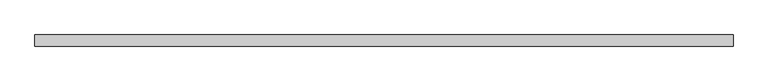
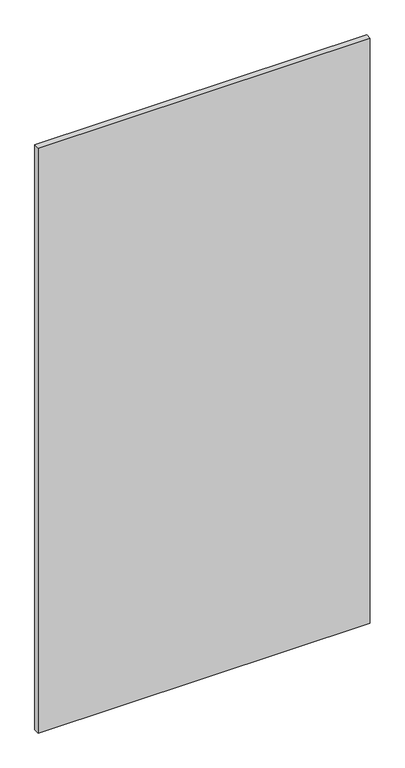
"""IFC4 building model written with IfcOpenShell, lengths in millimetres: plate geometry, 系统嵌板 : 玻璃."""

from ifc_helpers import new_model, si_unit, origin, origin_with_axes, place, context, project, spatial, polyline, outline, extrude, source, transform, mapped, element, save


def plate_ecb7967d(model_context):
    return source(origin(), model_context, "Body", "SweptSolid", [
        extrude(outline(polyline([(760.0000002, -12.5), (-760.0000002, -12.5), (-760.0000002, 12.5), (760.0000002, 12.5), (760.0000002, -12.5)])), origin_with_axes(), (0.0, 0.0, 1.0), 2830.0),
    ])


if __name__ == "__main__":
    model = new_model("IFC4")
    model_context = context("Model", 3, world=origin())
    ifc_project = project(units=[si_unit("LENGTHUNIT", "METRE", prefix="MILLI")], contexts=[model_context])
    site = spatial("IfcSite", under=ifc_project)
    building = spatial("IfcBuilding", under=site)
    placement = place(None, origin())
    plate_shape = plate_ecb7967d(model_context)
    element("IfcPlate", 1, ObjectType="系统嵌板 : 玻璃", at=placement, inside=building, context=model_context, shape_type="MappedRepresentation", body=[
        mapped(plate_shape, transform((0.0, 0.0, 0.0), x_axis=(1.0, 0.0, 0.0), y_axis=(0.0, 1.0, 0.0), z_axis=(0.0, 0.0, 1.0))),
    ])
    save(model, "model.ifc")
